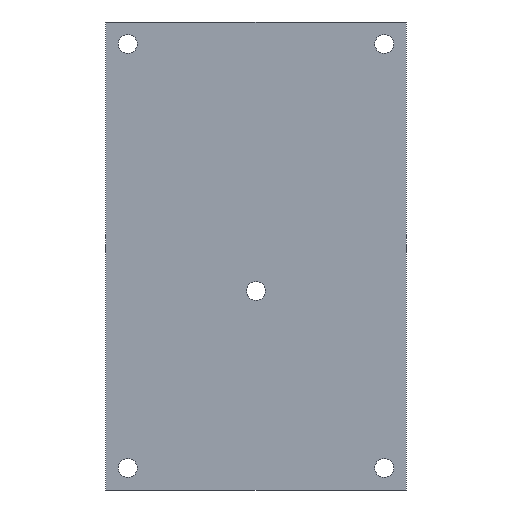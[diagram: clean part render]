
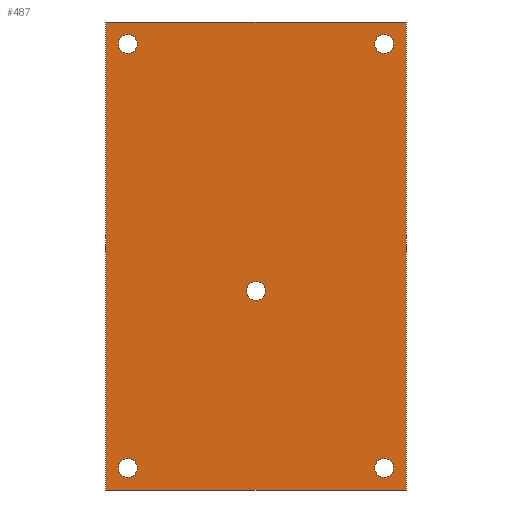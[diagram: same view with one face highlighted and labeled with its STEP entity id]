
A CAD part, front view. The second image highlights one B-rep face of the part: STEP entity #487.
In plain terms, the highlighted planar face has unit normal (0, -1, 0).
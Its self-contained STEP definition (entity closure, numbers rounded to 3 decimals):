
#71=DIRECTION('',(0.,0.,1.));
#72=VECTOR('',#71,67.);
#73=CARTESIAN_POINT('',(-21.5,0.,-33.5));
#74=LINE('',#73,#72);
#79=DIRECTION('',(1.,0.,0.));
#80=VECTOR('',#79,43.);
#81=CARTESIAN_POINT('',(-21.5,0.,33.5));
#82=LINE('',#81,#80);
#86=DIRECTION('',(0.,0.,-1.));
#87=VECTOR('',#86,67.);
#88=CARTESIAN_POINT('',(21.5,0.,33.5));
#89=LINE('',#88,#87);
#93=DIRECTION('',(-1.,0.,0.));
#94=VECTOR('',#93,43.);
#95=CARTESIAN_POINT('',(21.5,0.,-33.5));
#96=LINE('',#95,#94);
#100=CARTESIAN_POINT('',(-18.35,0.,30.35));
#101=DIRECTION('',(0.,-1.,0.));
#102=DIRECTION('',(1.,0.,0.));
#103=AXIS2_PLACEMENT_3D('',#100,#101,#102);
#108=CARTESIAN_POINT('',(-18.35,0.,30.35));
#109=DIRECTION('',(0.,-1.,0.));
#110=DIRECTION('',(-1.,0.,0.));
#111=AXIS2_PLACEMENT_3D('',#108,#109,#110);
#116=CARTESIAN_POINT('',(18.35,0.,30.35));
#117=DIRECTION('',(0.,1.,0.));
#118=DIRECTION('',(-1.,0.,0.));
#119=AXIS2_PLACEMENT_3D('',#116,#117,#118);
#124=CARTESIAN_POINT('',(18.35,0.,30.35));
#125=DIRECTION('',(0.,1.,0.));
#126=DIRECTION('',(1.,0.,0.));
#127=AXIS2_PLACEMENT_3D('',#124,#125,#126);
#132=CARTESIAN_POINT('',(-18.35,0.,-30.35));
#133=DIRECTION('',(0.,1.,0.));
#134=DIRECTION('',(1.,0.,0.));
#135=AXIS2_PLACEMENT_3D('',#132,#133,#134);
#140=CARTESIAN_POINT('',(-18.35,0.,-30.35));
#141=DIRECTION('',(0.,1.,0.));
#142=DIRECTION('',(-1.,0.,0.));
#143=AXIS2_PLACEMENT_3D('',#140,#141,#142);
#148=CARTESIAN_POINT('',(18.35,0.,-30.35));
#149=DIRECTION('',(0.,-1.,0.));
#150=DIRECTION('',(-1.,0.,0.));
#151=AXIS2_PLACEMENT_3D('',#148,#149,#150);
#156=CARTESIAN_POINT('',(18.35,0.,-30.35));
#157=DIRECTION('',(0.,-1.,0.));
#158=DIRECTION('',(1.,0.,0.));
#159=AXIS2_PLACEMENT_3D('',#156,#157,#158);
#164=CARTESIAN_POINT('',(0.,0.,-5.));
#165=DIRECTION('',(0.,-1.,0.));
#166=DIRECTION('',(1.,0.,0.));
#167=AXIS2_PLACEMENT_3D('',#164,#165,#166);
#172=CARTESIAN_POINT('',(0.,0.,-5.));
#173=DIRECTION('',(0.,-1.,0.));
#174=DIRECTION('',(-1.,0.,0.));
#175=AXIS2_PLACEMENT_3D('',#172,#173,#174);
#386=CARTESIAN_POINT('',(-21.5,0.,-33.5));
#387=CARTESIAN_POINT('',(-21.5,0.,33.5));
#388=VERTEX_POINT('',#386);
#389=VERTEX_POINT('',#387);
#390=CARTESIAN_POINT('',(21.5,0.,33.5));
#391=VERTEX_POINT('',#390);
#392=CARTESIAN_POINT('',(21.5,0.,-33.5));
#393=VERTEX_POINT('',#392);
#402=CARTESIAN_POINT('',(-17.,0.,30.35));
#403=CARTESIAN_POINT('',(-19.7,0.,30.35));
#404=VERTEX_POINT('',#402);
#405=VERTEX_POINT('',#403);
#411=CARTESIAN_POINT('',(17.,0.,30.35));
#413=VERTEX_POINT('',#411);
#415=CARTESIAN_POINT('',(19.7,0.,30.35));
#417=VERTEX_POINT('',#415);
#419=CARTESIAN_POINT('',(-17.,0.,-30.35));
#421=VERTEX_POINT('',#419);
#423=CARTESIAN_POINT('',(-19.7,0.,-30.35));
#425=VERTEX_POINT('',#423);
#427=CARTESIAN_POINT('',(17.,0.,-30.35));
#429=VERTEX_POINT('',#427);
#431=CARTESIAN_POINT('',(19.7,0.,-30.35));
#433=VERTEX_POINT('',#431);
#434=CARTESIAN_POINT('',(1.35,0.,-5.));
#435=CARTESIAN_POINT('',(-1.35,0.,-5.));
#436=VERTEX_POINT('',#434);
#437=VERTEX_POINT('',#435);
#442=CARTESIAN_POINT('',(0.,0.,0.));
#443=DIRECTION('',(0.,1.,0.));
#444=DIRECTION('',(1.,0.,0.));
#445=AXIS2_PLACEMENT_3D('',#442,#443,#444);
#446=PLANE('',#445);
#448=ORIENTED_EDGE('',*,*,#447,.T.);
#450=ORIENTED_EDGE('',*,*,#449,.T.);
#452=ORIENTED_EDGE('',*,*,#451,.T.);
#454=ORIENTED_EDGE('',*,*,#453,.T.);
#455=EDGE_LOOP('',(#448,#450,#452,#454));
#456=FACE_OUTER_BOUND('',#455,.F.);
#458=ORIENTED_EDGE('',*,*,#457,.T.);
#460=ORIENTED_EDGE('',*,*,#459,.T.);
#461=EDGE_LOOP('',(#458,#460));
#462=FACE_BOUND('',#461,.F.);
#464=ORIENTED_EDGE('',*,*,#463,.F.);
#466=ORIENTED_EDGE('',*,*,#465,.F.);
#467=EDGE_LOOP('',(#464,#466));
#468=FACE_BOUND('',#467,.F.);
#470=ORIENTED_EDGE('',*,*,#469,.F.);
#472=ORIENTED_EDGE('',*,*,#471,.F.);
#473=EDGE_LOOP('',(#470,#472));
#474=FACE_BOUND('',#473,.F.);
#476=ORIENTED_EDGE('',*,*,#475,.T.);
#478=ORIENTED_EDGE('',*,*,#477,.T.);
#479=EDGE_LOOP('',(#476,#478));
#480=FACE_BOUND('',#479,.F.);
#482=ORIENTED_EDGE('',*,*,#481,.T.);
#484=ORIENTED_EDGE('',*,*,#483,.T.);
#485=EDGE_LOOP('',(#482,#484));
#486=FACE_BOUND('',#485,.F.);
#487=ADVANCED_FACE('',(#456,#462,#468,#474,#480,#486),#446,.F.);
#104=CIRCLE('',#103,1.35);
#112=CIRCLE('',#111,1.35);
#120=CIRCLE('',#119,1.35);
#128=CIRCLE('',#127,1.35);
#136=CIRCLE('',#135,1.35);
#144=CIRCLE('',#143,1.35);
#152=CIRCLE('',#151,1.35);
#160=CIRCLE('',#159,1.35);
#168=CIRCLE('',#167,1.35);
#176=CIRCLE('',#175,1.35);
#447=EDGE_CURVE('',#388,#389,#74,.T.);
#449=EDGE_CURVE('',#389,#391,#82,.T.);
#451=EDGE_CURVE('',#391,#393,#89,.T.);
#453=EDGE_CURVE('',#393,#388,#96,.T.);
#457=EDGE_CURVE('',#404,#405,#104,.T.);
#459=EDGE_CURVE('',#405,#404,#112,.T.);
#463=EDGE_CURVE('',#413,#417,#120,.T.);
#465=EDGE_CURVE('',#417,#413,#128,.T.);
#469=EDGE_CURVE('',#421,#425,#136,.T.);
#471=EDGE_CURVE('',#425,#421,#144,.T.);
#475=EDGE_CURVE('',#429,#433,#152,.T.);
#477=EDGE_CURVE('',#433,#429,#160,.T.);
#481=EDGE_CURVE('',#436,#437,#168,.T.);
#483=EDGE_CURVE('',#437,#436,#176,.T.);
